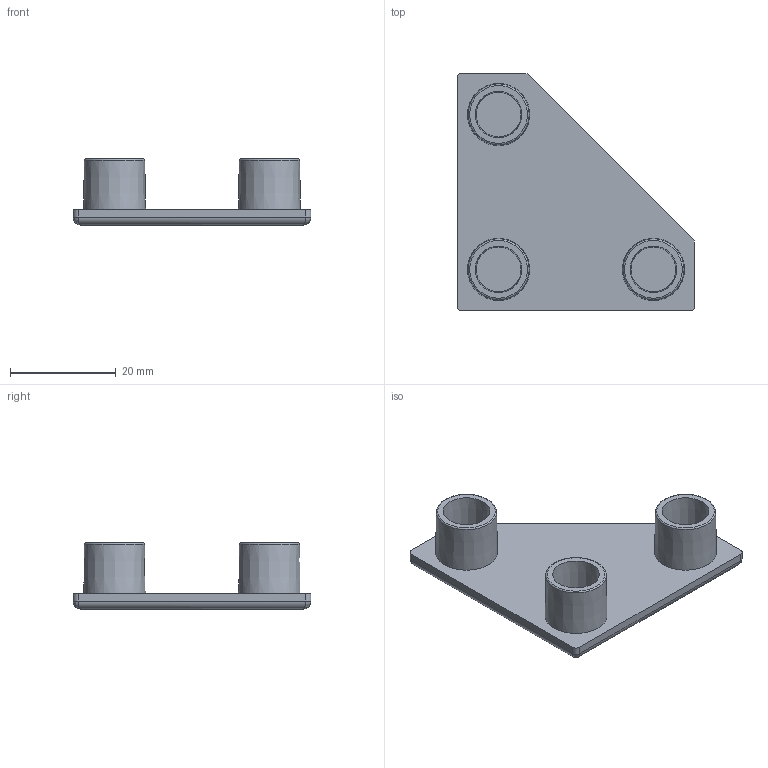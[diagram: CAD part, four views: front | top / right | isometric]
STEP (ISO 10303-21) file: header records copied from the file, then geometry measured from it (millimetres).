
FILE_DESCRIPTION((''),'2;1');
FILE_NAME('C:\Documents and Settings\Administrator\My Documents\Andys Backup Data\ANDY''S INVENTOR\INVENTOR LIBRARIES\MINITEC INVENTOR LIBRARIES\END CAPS\22.1051_1 END CAP 45X45 DEG GRAY.stp','2010-07-19T14:34:14',('Administrator'),(''),'Autodesk Inventor 2009','Autodesk Inventor 2009','');
FILE_SCHEMA(('AUTOMOTIVE_DESIGN { 1 0 10303 214 1 1 1 1 }'));
Length unit declared in the file: millimetre
Products named in the file (1): 22.1051_1 END CAP 45X45 DEG GRAY
Bounding box: 45 x 45 x 12.5 mm (x, y, z)
Volume: 5799.2 mm3; surface area: 5182.3 mm2
Topology: 1 solids, 1 shells, 37 faces, 74 edges, 40 vertices
Faces by surface type: plane 13, cylinder 10, cone 6, torus 3, bspline 3, sphere 2
Entity records: 1075 total; most frequent: CARTESIAN_POINT 327, DIRECTION 165, ORIENTED_EDGE 120, AXIS2_PLACEMENT_3D 70, EDGE_CURVE 60, EDGE_LOOP 52, VERTEX_POINT 40, FACE_OUTER_BOUND 37
